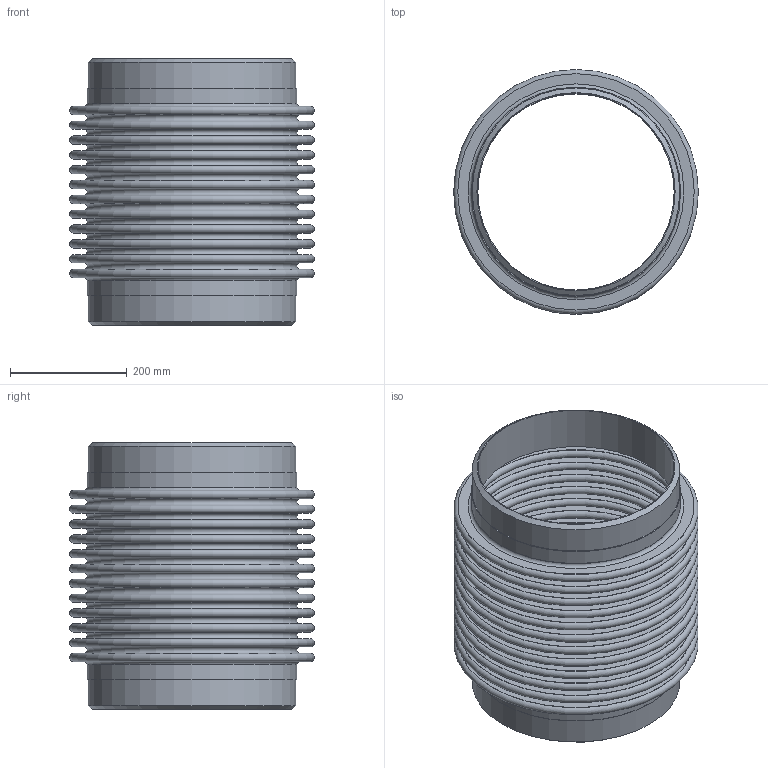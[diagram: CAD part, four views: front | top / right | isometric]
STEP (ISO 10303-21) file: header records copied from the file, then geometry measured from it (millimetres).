
FILE_DESCRIPTION(/* description */ ('EXPANSION JOINT,SINGLE, WELD ENDS,4 INCH NOMINAL'),/* implementation_level */ '2;1');
FILE_NAME(/* name */ 'ASSEMBLY US-14-12-150L.stp',/* time_stamp */ '2026-07-29T15:53:40-05:00',/* author */ ('jorgef'),/* organization */ (''),/* preprocessor_version */ 'ST-DEVELOPER v20.1',/* originating_system */ 'Autodesk Inventor 2026',/* authorisation */ '');
FILE_SCHEMA (('AUTOMOTIVE_DESIGN { 1 0 10303 214 3 1 1 }'));
Length unit declared in the file: inch
Products named in the file (3): ASSEMBLY  US-14-12-150L; STOCK BELLOW - US-14-12-150L; PIPE- US-14-12-150L
Assembly tree (3 placements, depth 2):
  ASSEMBLY  US-14-12-150L
    STOCK BELLOW - US-14-12-150L
    PIPE- US-14-12-150L  x2
Bounding box: 419.1 x 419.1 x 457.2 mm (x, y, z)
Volume: 3279870.9 mm3; surface area: 2676924.9 mm2
Topology: 5 solids, 5 shells, 118 faces, 180 edges, 121 vertices
Faces by surface type: plane 58, torus 50, cylinder 8, cone 2
Full cylindrical faces by diameter (mm): 336.55 x2, 355.6 x4, 358.648 x2
Entity records: 2769 total; most frequent: DIRECTION 573, CARTESIAN_POINT 405, ORIENTED_EDGE 342, AXIS2_PLACEMENT_3D 283, EDGE_CURVE 171, EDGE_LOOP 169, CIRCLE 164, VERTEX_POINT 114
